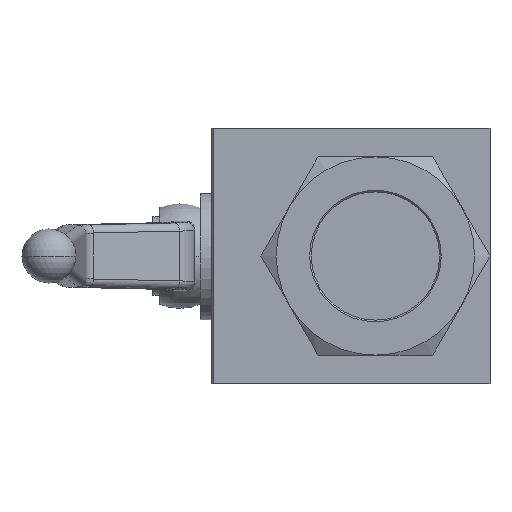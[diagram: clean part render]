
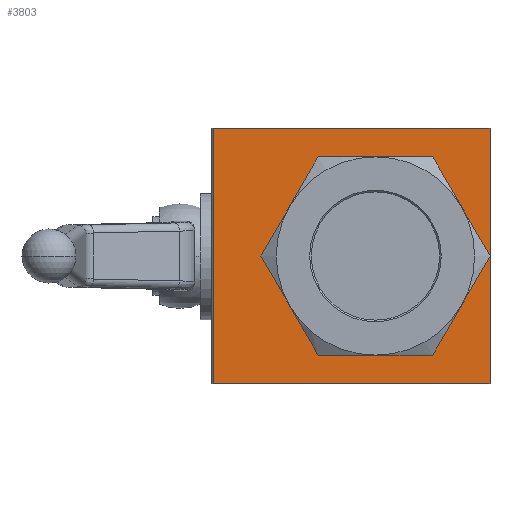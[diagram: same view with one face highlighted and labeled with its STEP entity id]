
A CAD part, left-side view. The second image highlights one B-rep face of the part: STEP entity #3803.
In plain terms, the highlighted planar face has unit normal (-1, 0, 0).
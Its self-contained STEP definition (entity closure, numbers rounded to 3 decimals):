
#233 = DIRECTION ( 'NONE',  ( 1., 0., 0. ) ) ;
#330 = VERTEX_POINT ( 'NONE', #3530 ) ;
#902 = ORIENTED_EDGE ( 'NONE', *, *, #3447, .F. ) ;
#1055 = EDGE_CURVE ( 'NONE', #6396, #2843, #1198, .T. ) ;
#1098 = DIRECTION ( 'NONE',  ( 0., -1., 0. ) ) ;
#1156 = EDGE_LOOP ( 'NONE', ( #9549, #2133, #7283, #9049 ) ) ;
#1198 = CIRCLE ( 'NONE', #9538, 30.3 ) ;
#1357 = FACE_BOUND ( 'NONE', #2722, .T. ) ;
#1433 = CARTESIAN_POINT ( 'NONE',  ( -40., -42.5, -39. ) ) ;
#1646 = VERTEX_POINT ( 'NONE', #7622 ) ;
#2077 = DIRECTION ( 'NONE',  ( -1., 0., 0. ) ) ;
#2108 = AXIS2_PLACEMENT_3D ( 'NONE', #6942, #2465, #7708 ) ;
#2133 = ORIENTED_EDGE ( 'NONE', *, *, #9112, .F. ) ;
#2317 = EDGE_CURVE ( 'NONE', #6813, #330, #7198, .T. ) ;
#2422 = CARTESIAN_POINT ( 'NONE',  ( -40., -7.5, -30.3 ) ) ;
#2465 = DIRECTION ( 'NONE',  ( -1., 0., 0. ) ) ;
#2722 = EDGE_LOOP ( 'NONE', ( #4595, #902 ) ) ;
#2843 = VERTEX_POINT ( 'NONE', #2422 ) ;
#3108 = FACE_OUTER_BOUND ( 'NONE', #1156, .T. ) ;
#3447 = EDGE_CURVE ( 'NONE', #2843, #6396, #8977, .T. ) ;
#3530 = CARTESIAN_POINT ( 'NONE',  ( -40., 42., -39. ) ) ;
#3803 = ADVANCED_FACE ( 'NONE', ( #3108, #1357 ), #4697, .F. ) ;
#4263 = EDGE_CURVE ( 'NONE', #6813, #1646, #8216, .T. ) ;
#4416 = DIRECTION ( 'NONE',  ( 0., -1., 0. ) ) ;
#4595 = ORIENTED_EDGE ( 'NONE', *, *, #1055, .F. ) ;
#4697 = PLANE ( 'NONE',  #5012 ) ;
#4729 = CARTESIAN_POINT ( 'NONE',  ( -40., 42.5, 39. ) ) ;
#4978 = CARTESIAN_POINT ( 'NONE',  ( -40., 42., 39. ) ) ;
#5012 = AXIS2_PLACEMENT_3D ( 'NONE', #4729, #233, #5466 ) ;
#5091 = CARTESIAN_POINT ( 'NONE',  ( -40., 42.5, 39. ) ) ;
#5223 = VECTOR ( 'NONE', #6200, 1000. ) ;
#5260 = LINE ( 'NONE', #6483, #7242 ) ;
#5466 = DIRECTION ( 'NONE',  ( 0., 1., 0. ) ) ;
#5986 = VECTOR ( 'NONE', #4416, 1000. ) ;
#6200 = DIRECTION ( 'NONE',  ( 0., 0., -1. ) ) ;
#6396 = VERTEX_POINT ( 'NONE', #9541 ) ;
#6483 = CARTESIAN_POINT ( 'NONE',  ( -40., -42.5, 39. ) ) ;
#6497 = VERTEX_POINT ( 'NONE', #1433 ) ;
#6550 = CARTESIAN_POINT ( 'NONE',  ( -40., -7.5, 0. ) ) ;
#6683 = LINE ( 'NONE', #7079, #8438 ) ;
#6813 = VERTEX_POINT ( 'NONE', #4978 ) ;
#6942 = CARTESIAN_POINT ( 'NONE',  ( -40., -7.5, 0. ) ) ;
#7079 = CARTESIAN_POINT ( 'NONE',  ( -40., 42.5, -39. ) ) ;
#7198 = LINE ( 'NONE', #9177, #5223 ) ;
#7242 = VECTOR ( 'NONE', #9402, 1000. ) ;
#7283 = ORIENTED_EDGE ( 'NONE', *, *, #4263, .F. ) ;
#7298 = DIRECTION ( 'NONE',  ( 0., 0., 1. ) ) ;
#7622 = CARTESIAN_POINT ( 'NONE',  ( -40., -42.5, 39. ) ) ;
#7708 = DIRECTION ( 'NONE',  ( 0., 0., 1. ) ) ;
#8216 = LINE ( 'NONE', #5091, #5986 ) ;
#8438 = VECTOR ( 'NONE', #1098, 1000. ) ;
#8826 = EDGE_CURVE ( 'NONE', #330, #6497, #6683, .T. ) ;
#8977 = CIRCLE ( 'NONE', #2108, 30.3 ) ;
#9049 = ORIENTED_EDGE ( 'NONE', *, *, #2317, .T. ) ;
#9112 = EDGE_CURVE ( 'NONE', #1646, #6497, #5260, .T. ) ;
#9177 = CARTESIAN_POINT ( 'NONE',  ( -40., 42., 39. ) ) ;
#9402 = DIRECTION ( 'NONE',  ( 0., 0., -1. ) ) ;
#9538 = AXIS2_PLACEMENT_3D ( 'NONE', #6550, #2077, #7298 ) ;
#9541 = CARTESIAN_POINT ( 'NONE',  ( -40., -7.5, 30.3 ) ) ;
#9549 = ORIENTED_EDGE ( 'NONE', *, *, #8826, .T. ) ;
